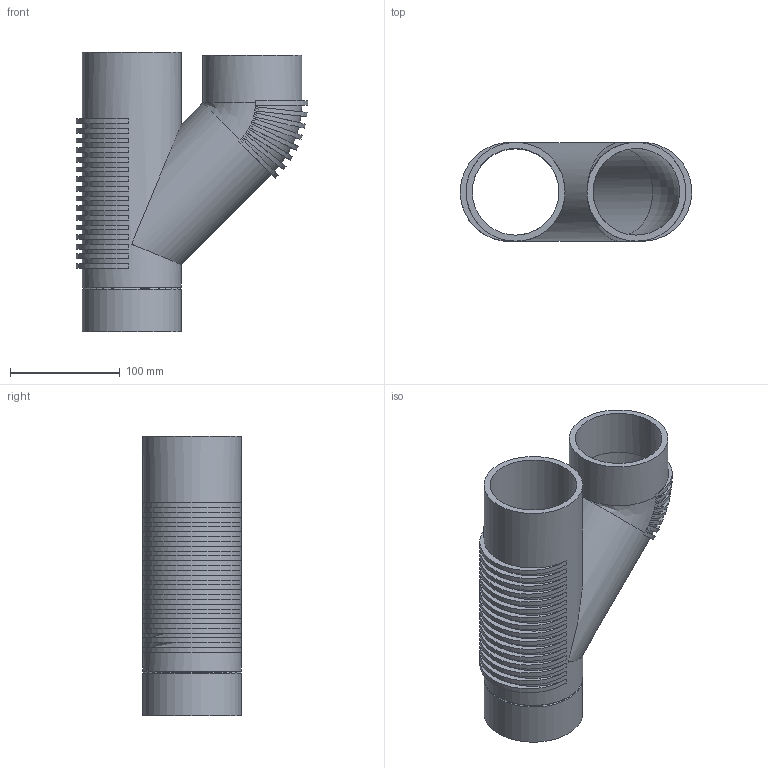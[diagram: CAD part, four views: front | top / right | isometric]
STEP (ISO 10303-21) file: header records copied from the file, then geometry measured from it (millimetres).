
FILE_DESCRIPTION(/* description */ (''),/* implementation_level */ '2;1');
FILE_NAME(/* name */ 'C:\Geberit-Teile\Export 2019\308.081.14.1\stp\308081.stp',/* time_stamp */ '2019-05-09T13:36:57+02:00',/* author */ ('JANAN'),/* organization */ (''),/* preprocessor_version */ 'ST-DEVELOPER v16.13',/* originating_system */ 'Autodesk Inventor 2018',/* authorisation */ '');
FILE_SCHEMA (('AUTOMOTIVE_DESIGN { 1 0 10303 214 3 1 1 }'));
Length unit declared in the file: millimetre
Products named in the file (1): Parallelabzweig PE-S2 45G d90/90
Bounding box: 210.67 x 90 x 255 mm (x, y, z)
Volume: 631693.8 mm3; surface area: 242534.8 mm2
Topology: 1 solids, 1 shells, 100 faces, 285 edges, 186 vertices
Faces by surface type: plane 51, cylinder 45, cone 2, bspline 1, torus 1
Full cylindrical faces by diameter (mm): 79 x3, 90 x4
Entity records: 3331 total; most frequent: CARTESIAN_POINT 853, DIRECTION 534, ORIENTED_EDGE 440, AXIS2_PLACEMENT_3D 242, EDGE_CURVE 220, VERTEX_POINT 149, CIRCLE 138, EDGE_LOOP 137
